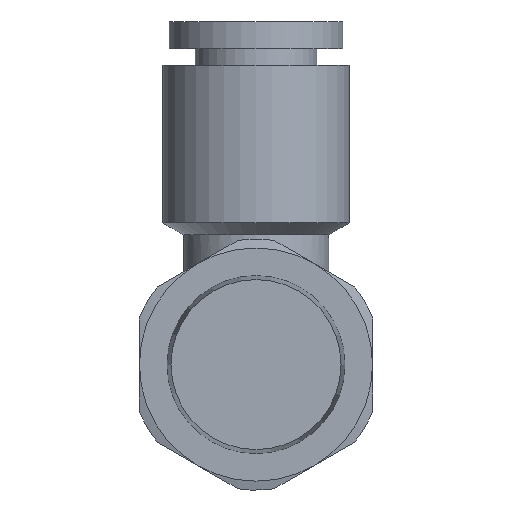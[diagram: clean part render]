
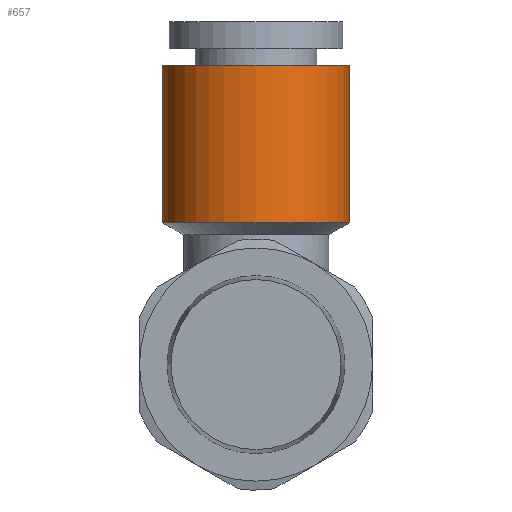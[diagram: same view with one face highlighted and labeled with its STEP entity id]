
A CAD part, front view. The second image highlights one B-rep face of the part: STEP entity #657.
In plain terms, the highlighted cylindrical face has radius 5.2 mm (diameter 10.4 mm), a full revolution.
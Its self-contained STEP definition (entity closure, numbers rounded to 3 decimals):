
#273=ORIENTED_EDGE('',*,*,#364,.F.);
#274=ORIENTED_EDGE('',*,*,#363,.T.);
#363=EDGE_CURVE('',#422,#422,#466,.T.);
#364=EDGE_CURVE('',#423,#423,#467,.T.);
#422=VERTEX_POINT('',#1246);
#423=VERTEX_POINT('',#1249);
#466=CIRCLE('',#758,5.2);
#467=CIRCLE('',#760,5.2);
#527=EDGE_LOOP('',(#273));
#528=EDGE_LOOP('',(#274));
#592=FACE_BOUND('',#527,.T.);
#593=FACE_BOUND('',#528,.T.);
#612=CYLINDRICAL_SURFACE('',#759,5.2);
#657=ADVANCED_FACE('',(#592,#593),#612,.T.);
#758=AXIS2_PLACEMENT_3D('',#1245,#949,#950);
#759=AXIS2_PLACEMENT_3D('',#1247,#951,#952);
#760=AXIS2_PLACEMENT_3D('',#1248,#953,#954);
#949=DIRECTION('',(0.,0.,-1.));
#950=DIRECTION('',(-1.,0.,0.));
#951=DIRECTION('',(0.,0.,-1.));
#952=DIRECTION('',(-1.,0.,0.));
#953=DIRECTION('',(0.,0.,-1.));
#954=DIRECTION('',(-1.,0.,0.));
#1245=CARTESIAN_POINT('',(0.,16.,16.7));
#1246=CARTESIAN_POINT('',(-5.2,16.,16.7));
#1247=CARTESIAN_POINT('',(0.,16.,0.));
#1248=CARTESIAN_POINT('',(0.,16.,7.9));
#1249=CARTESIAN_POINT('',(-5.2,16.,7.9));
